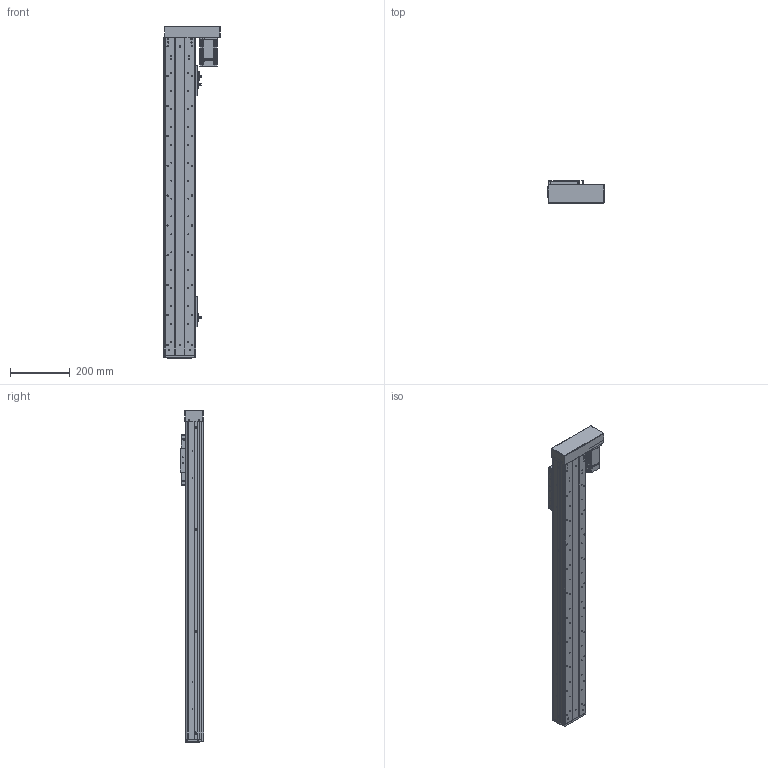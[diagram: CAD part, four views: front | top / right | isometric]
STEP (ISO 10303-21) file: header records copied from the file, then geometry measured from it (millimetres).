
FILE_DESCRIPTION (( 'STEP AP203' ), '1' );
FILE_NAME ('RY100FS-L1620-300-RK(15双轨).SLDASM_800.step', '2021-03-02T07:46:27', ( '盈信电脑' ), ( '东莞市道滘镇水果街19号' ), 'SwSTEP 2.0', 'SolidWorks 2012', '' );
FILE_SCHEMA (( 'CONFIG_CONTROL_DESIGN' ));
Length unit declared in the file: millimetre
Products named in the file (21): 蚥薯蝶紫輸; RY100FS-15邧寢蛌殏萇儂啣; RY100FS-L1620-300-RK(15邧寢).SLDASM_800; RY100FS-15邧寢蛌殏萇儂欶; 1; 滅袉蝶14-35; RY100FS-15邧寢蛌殏萇儂釱; RY100FS-双轨螺母座(16丝杆）; 覜茼ん672; RY100F-詩湍揤踡輸; RY80俋离覜茼え; 672嫖萇羲壽假蚾釱; RY100F-綴裔啣; 棠沺沭; RY100F-詩湍幗謫粣; RY100F-滅鳥裔啣; RY100F-詩湍揤踡謫; RY100FS-300-RK15絳寢倰第奻裔啣_800; RY100FS-双轨铝滑块(上板）; RY100FS-300-RK15邧寢祥凄詩湍_800; RY100FS-300-RK15絳寢倰第菁釱_800
Assembly tree (29 placements, depth 2):
  RY100FS-L1620-300-RK(15邧寢).SLDASM_800
    RY100FS-300-RK15絳寢倰第菁釱_800
    RY100FS-300-RK15絳寢倰第奻裔啣_800  x2
    RY100FS-300-RK15邧寢祥凄詩湍_800
    RY100FS-双轨铝滑块(上板）
    RY100F-滅鳥裔啣
    棠沺沭  x2
    RY100F-詩湍幗謫粣
    RY100F-詩湍揤踡謫  x2
    RY100F-綴裔啣
    672嫖萇羲壽假蚾釱  x2
    RY80俋离覜茼え  x2
    覜茼ん672  x3
    RY100F-詩湍揤踡輸  x2
    RY100FS-双轨螺母座(16丝杆）
    RY100FS-15邧寢蛌殏萇儂釱
    滅袉蝶14-35
    1
    RY100FS-15邧寢蛌殏萇儂啣
    RY100FS-15邧寢蛌殏萇儂欶
    蚥薯蝶紫輸  x2
Bounding box: 189.5 x 78.5 x 1112 mm (x, y, z)
Volume: 2628339.9 mm3; surface area: 1126781.5 mm2
Topology: 29 solids, 29 shells, 2284 faces, 6217 edges, 4016 vertices
Faces by surface type: cylinder 1050, plane 1033, cone 168, bspline 33
Entity records: 66000 total; most frequent: CARTESIAN_POINT 14117, DIRECTION 10332, ORIENTED_EDGE 10242, EDGE_CURVE 5121, AXIS2_PLACEMENT_3D 3662, VERTEX_POINT 3364, VECTOR 3008, LINE 3008
